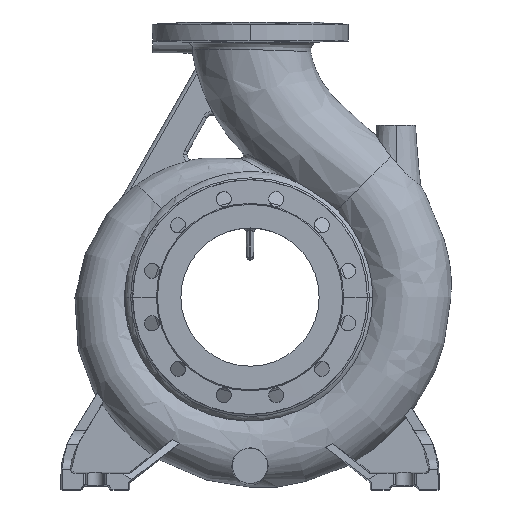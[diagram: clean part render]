
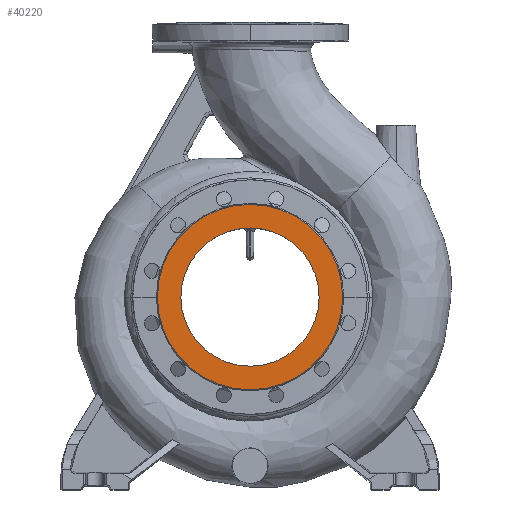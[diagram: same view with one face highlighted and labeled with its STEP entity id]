
A CAD part, top view. The second image highlights one B-rep face of the part: STEP entity #40220.
In plain terms, the highlighted planar face has unit normal (0, 0, 1).
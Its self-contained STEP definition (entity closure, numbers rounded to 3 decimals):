
#985 = CARTESIAN_POINT ( 'NONE',  ( 0., 0., 160. ) ) ;
#1095 = PLANE ( 'NONE',  #28621 ) ;
#4324 = DIRECTION ( 'NONE',  ( 1., 0., 0. ) ) ;
#4766 = CARTESIAN_POINT ( 'NONE',  ( 100.5, 0., 160. ) ) ;
#6588 = DIRECTION ( 'NONE',  ( 0., 0., 1. ) ) ;
#6878 = CIRCLE ( 'NONE', #21533, 134.678 ) ;
#8068 = CARTESIAN_POINT ( 'NONE',  ( 0., 150., 160. ) ) ;
#8120 = VERTEX_POINT ( 'NONE', #16050 ) ;
#8630 = CIRCLE ( 'NONE', #27903, 100.5 ) ;
#8656 = ORIENTED_EDGE ( 'NONE', *, *, #20558, .F. ) ;
#8661 = ORIENTED_EDGE ( 'NONE', *, *, #25187, .F. ) ;
#13508 = FACE_BOUND ( 'NONE', #19761, .T. ) ;
#13600 = CARTESIAN_POINT ( 'NONE',  ( 0., 0., 160. ) ) ;
#13766 = VERTEX_POINT ( 'NONE', #4766 ) ;
#15139 = CARTESIAN_POINT ( 'NONE',  ( 0., 0., 160. ) ) ;
#15234 = EDGE_CURVE ( 'NONE', #38460, #8120, #24043, .T. ) ;
#16050 = CARTESIAN_POINT ( 'NONE',  ( -134.678, 0., 160. ) ) ;
#16956 = DIRECTION ( 'NONE',  ( 1., 0., 0. ) ) ;
#17702 = FACE_OUTER_BOUND ( 'NONE', #41558, .T. ) ;
#18492 = DIRECTION ( 'NONE',  ( 1., 0., 0. ) ) ;
#18738 = DIRECTION ( 'NONE',  ( 0., 0., 1. ) ) ;
#19761 = EDGE_LOOP ( 'NONE', ( #8656, #8661 ) ) ;
#20558 = EDGE_CURVE ( 'NONE', #13766, #31093, #8630, .T. ) ;
#21533 = AXIS2_PLACEMENT_3D ( 'NONE', #985, #24316, #4324 ) ;
#22483 = AXIS2_PLACEMENT_3D ( 'NONE', #15139, #38468, #18492 ) ;
#24043 = CIRCLE ( 'NONE', #22483, 134.678 ) ;
#24316 = DIRECTION ( 'NONE',  ( 0., 0., 1. ) ) ;
#25187 = EDGE_CURVE ( 'NONE', #31093, #13766, #31988, .T. ) ;
#26559 = CARTESIAN_POINT ( 'NONE',  ( 0., 0., 160. ) ) ;
#26601 = AXIS2_PLACEMENT_3D ( 'NONE', #13600, #36930, #16956 ) ;
#27903 = AXIS2_PLACEMENT_3D ( 'NONE', #26559, #6588, #29903 ) ;
#28621 = AXIS2_PLACEMENT_3D ( 'NONE', #8068, #18738, #42051 ) ;
#29903 = DIRECTION ( 'NONE',  ( 1., 0., 0. ) ) ;
#31093 = VERTEX_POINT ( 'NONE', #42491 ) ;
#31634 = CARTESIAN_POINT ( 'NONE',  ( 134.678, 0., 160. ) ) ;
#31988 = CIRCLE ( 'NONE', #26601, 100.5 ) ;
#33693 = ORIENTED_EDGE ( 'NONE', *, *, #15234, .T. ) ;
#34251 = EDGE_CURVE ( 'NONE', #8120, #38460, #6878, .T. ) ;
#35063 = ORIENTED_EDGE ( 'NONE', *, *, #34251, .T. ) ;
#36930 = DIRECTION ( 'NONE',  ( 0., 0., 1. ) ) ;
#38460 = VERTEX_POINT ( 'NONE', #31634 ) ;
#38468 = DIRECTION ( 'NONE',  ( 0., 0., 1. ) ) ;
#40220 = ADVANCED_FACE ( 'NONE', ( #13508, #17702 ), #1095, .T. ) ;
#41558 = EDGE_LOOP ( 'NONE', ( #35063, #33693 ) ) ;
#42051 = DIRECTION ( 'NONE',  ( 1., 0., 0. ) ) ;
#42491 = CARTESIAN_POINT ( 'NONE',  ( -100.5, 0., 160. ) ) ;
